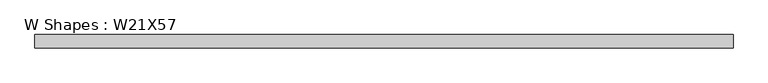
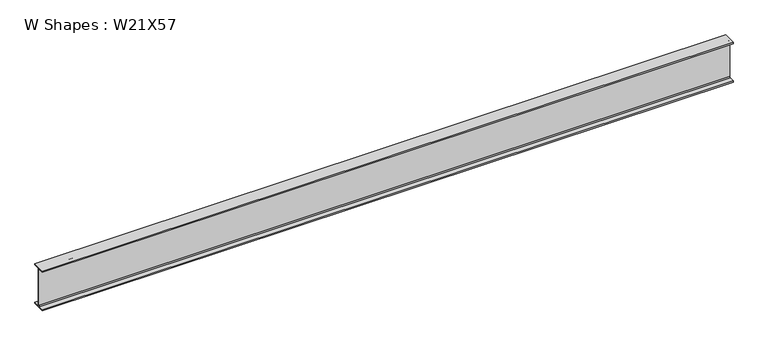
"""IFC4 building model written with IfcOpenShell, lengths in millimetres: beam geometry, W Shapes : W21X57."""

from ifc_helpers import new_model, si_unit, point, frame, frame_2d, origin, place, context, project, spatial, polyline, circle_curve, trimmed, segment, composite_curve, outline, extrude, source, transform, mapped, element, save


def w_shapes_w21x57_2c3ae1b6(model_context):
    return source(origin(), model_context, "Body", "SweptSolid", [
        extrude(outline(composite_curve([segment(polyline([(83.312, -251.46), (83.312, -267.97), (-83.312, -267.97), (-83.312, -251.46), (-17.8435, -251.46)]), True, "CONTINUOUS"), segment(trimmed(circle_curve(frame_2d((-17.8435, -238.76)), 12.7), [point((-17.8435, -251.46))], [point((-5.1435, -238.76))], True, "CARTESIAN"), True, "CONTINUOUS"), segment(polyline([(-5.1435, -238.76), (-5.1435, 238.76)]), True, "CONTINUOUS"), segment(trimmed(circle_curve(frame_2d((-17.8435, 238.76)), 12.7), [point((-5.1435, 238.76))], [point((-17.8435, 251.46))], True, "CARTESIAN"), True, "CONTINUOUS"), segment(polyline([(-17.8435, 251.46), (-83.312, 251.46), (-83.312, 267.97), (83.312, 267.97), (83.312, 251.46), (17.8435, 251.46)]), True, "CONTINUOUS"), segment(trimmed(circle_curve(frame_2d((17.8435, 238.76)), 12.7), [point((17.8435, 251.46))], [point((5.1435, 238.76))], True, "CARTESIAN"), True, "CONTINUOUS"), segment(polyline([(5.1435, 238.76), (5.1435, -238.76)]), True, "CONTINUOUS"), segment(trimmed(circle_curve(frame_2d((17.8435, -238.76)), 12.7), [point((5.1435, -238.76))], [point((17.8435, -251.46))], True, "CARTESIAN"), True, "CONTINUOUS"), segment(polyline([(17.8435, -251.46), (83.312, -251.46)]), True, "CONTINUOUS")], self_intersect=False)), frame((-4341.488, 0.0, 0.0), z_axis=(1.0, 0.0, 0.0), x_axis=(0.0, 1.0, 0.0)), (0.0, 0.0, 1.0), 8807.976),
    ])


if __name__ == "__main__":
    model = new_model("IFC4")
    model_context = context("Model", 3, world=origin())
    ifc_project = project(units=[si_unit("LENGTHUNIT", "METRE", prefix="MILLI")], contexts=[model_context])
    site = spatial("IfcSite", under=ifc_project)
    building = spatial("IfcBuilding", under=site)
    placement = place(None, origin())
    w_shapes_w21x57_shape = w_shapes_w21x57_2c3ae1b6(model_context)
    element("IfcBeam", 1, ObjectType="W Shapes : W21X57", at=placement, inside=building, context=model_context, shape_type="MappedRepresentation", body=[
        mapped(w_shapes_w21x57_shape, transform((0.0, 0.0, 0.0), x_axis=(1.0, 0.0, 0.0), y_axis=(0.0, 1.0, 0.0), z_axis=(0.0, 0.0, 1.0))),
    ])
    save(model, "model.ifc")
